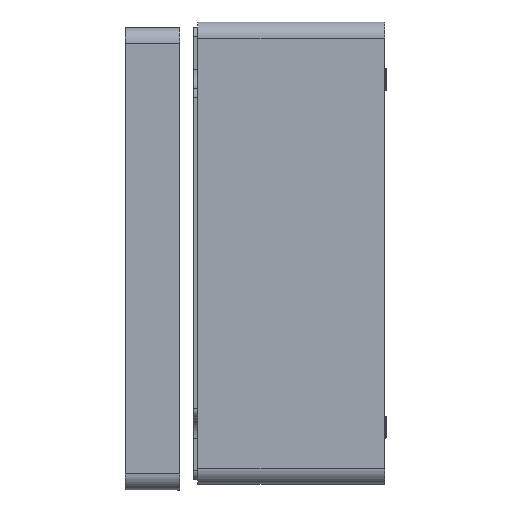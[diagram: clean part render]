
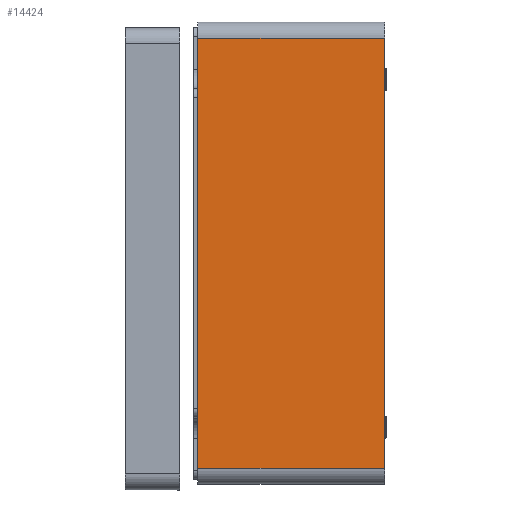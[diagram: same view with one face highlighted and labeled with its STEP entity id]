
A CAD part, left-side view. The second image highlights one B-rep face of the part: STEP entity #14424.
In plain terms, the highlighted planar face has unit normal (-1, 0, 0).
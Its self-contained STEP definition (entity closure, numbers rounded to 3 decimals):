
#235 = VECTOR ( 'NONE', #13243, 1000. ) ;
#401 = ORIENTED_EDGE ( 'NONE', *, *, #14050, .T. ) ;
#2209 = VERTEX_POINT ( 'NONE', #14529 ) ;
#3435 = DIRECTION ( 'NONE',  ( 0., -1., 0. ) ) ;
#5257 = EDGE_CURVE ( 'NONE', #25425, #17085, #14980, .T. ) ;
#5510 = CARTESIAN_POINT ( 'NONE',  ( -100., 93., -107. ) ) ;
#5953 = AXIS2_PLACEMENT_3D ( 'NONE', #18809, #14668, #12216 ) ;
#6277 = FACE_OUTER_BOUND ( 'NONE', #8919, .T. ) ;
#8139 = VECTOR ( 'NONE', #3435, 1000. ) ;
#8919 = EDGE_LOOP ( 'NONE', ( #25204, #23917, #13523, #401 ) ) ;
#9142 = CARTESIAN_POINT ( 'NONE',  ( -100., 93., -107. ) ) ;
#10399 = VERTEX_POINT ( 'NONE', #9142 ) ;
#10715 = CARTESIAN_POINT ( 'NONE',  ( -100., 93., -115. ) ) ;
#10856 = DIRECTION ( 'NONE',  ( 0., 1., 0. ) ) ;
#10994 = CARTESIAN_POINT ( 'NONE',  ( -100., 93., 107. ) ) ;
#11842 = EDGE_CURVE ( 'NONE', #2209, #25425, #26307, .T. ) ;
#12216 = DIRECTION ( 'NONE',  ( 0., 0., -1. ) ) ;
#12763 = CARTESIAN_POINT ( 'NONE',  ( -100., 93., 107. ) ) ;
#13243 = DIRECTION ( 'NONE',  ( 0., 0., 1. ) ) ;
#13363 = EDGE_CURVE ( 'NONE', #10399, #17085, #15763, .T. ) ;
#13523 = ORIENTED_EDGE ( 'NONE', *, *, #13363, .F. ) ;
#14050 = EDGE_CURVE ( 'NONE', #10399, #2209, #24380, .T. ) ;
#14424 = ADVANCED_FACE ( 'NONE', ( #6277 ), #20612, .F. ) ;
#14529 = CARTESIAN_POINT ( 'NONE',  ( -100., 0., -107. ) ) ;
#14668 = DIRECTION ( 'NONE',  ( 1., 0., 0. ) ) ;
#14980 = LINE ( 'NONE', #10994, #25389 ) ;
#15763 = LINE ( 'NONE', #10715, #21828 ) ;
#15849 = CARTESIAN_POINT ( 'NONE',  ( -100., 0., -115. ) ) ;
#17085 = VERTEX_POINT ( 'NONE', #12763 ) ;
#18809 = CARTESIAN_POINT ( 'NONE',  ( -100., 93., -115. ) ) ;
#19102 = CARTESIAN_POINT ( 'NONE',  ( -100., 0., 107. ) ) ;
#19109 = DIRECTION ( 'NONE',  ( 0., 0., 1. ) ) ;
#20612 = PLANE ( 'NONE',  #5953 ) ;
#21828 = VECTOR ( 'NONE', #19109, 1000. ) ;
#23917 = ORIENTED_EDGE ( 'NONE', *, *, #5257, .T. ) ;
#24380 = LINE ( 'NONE', #5510, #8139 ) ;
#25204 = ORIENTED_EDGE ( 'NONE', *, *, #11842, .T. ) ;
#25389 = VECTOR ( 'NONE', #10856, 1000. ) ;
#25425 = VERTEX_POINT ( 'NONE', #19102 ) ;
#26307 = LINE ( 'NONE', #15849, #235 ) ;
